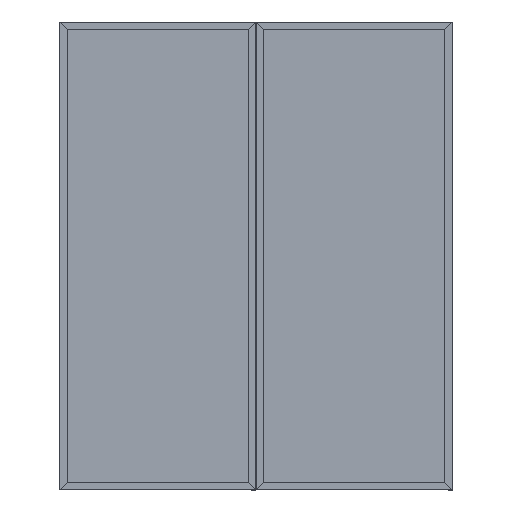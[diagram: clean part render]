
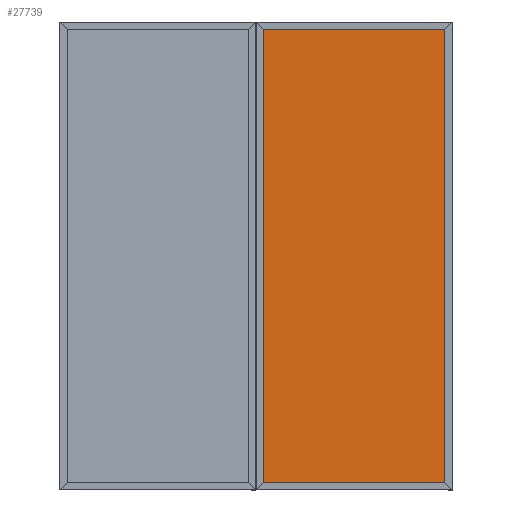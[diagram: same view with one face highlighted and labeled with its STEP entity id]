
A CAD part, top view. The second image highlights one B-rep face of the part: STEP entity #27739.
In plain terms, the highlighted planar face has unit normal (0, 0, 1).
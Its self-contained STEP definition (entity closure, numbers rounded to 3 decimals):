
#759 = LINE ( 'NONE', #15832, #7127 ) ;
#1435 = CARTESIAN_POINT ( 'NONE',  ( -465.07, 0., -13.25 ) ) ;
#1963 = VERTEX_POINT ( 'NONE', #13023 ) ;
#3096 = VERTEX_POINT ( 'NONE', #8556 ) ;
#3707 = CARTESIAN_POINT ( 'NONE',  ( 465.07, -1162.2, -13.25 ) ) ;
#4306 = LINE ( 'NONE', #17228, #21281 ) ;
#4667 = EDGE_LOOP ( 'NONE', ( #6919, #12880, #11565, #24168 ) ) ;
#6251 = DIRECTION ( 'NONE',  ( 0., 0., -1. ) ) ;
#6654 = FACE_OUTER_BOUND ( 'NONE', #4667, .T. ) ;
#6919 = ORIENTED_EDGE ( 'NONE', *, *, #24378, .F. ) ;
#7127 = VECTOR ( 'NONE', #18235, 1000. ) ;
#7663 = AXIS2_PLACEMENT_3D ( 'NONE', #23985, #6251, #14912 ) ;
#8556 = CARTESIAN_POINT ( 'NONE',  ( 465.07, 1162.2, -13.25 ) ) ;
#9141 = VERTEX_POINT ( 'NONE', #3707 ) ;
#10625 = CARTESIAN_POINT ( 'NONE',  ( 465.07, 0., -13.25 ) ) ;
#11454 = CARTESIAN_POINT ( 'NONE',  ( -465.07, -1162.2, -13.25 ) ) ;
#11553 = EDGE_CURVE ( 'NONE', #9141, #3096, #25670, .T. ) ;
#11565 = ORIENTED_EDGE ( 'NONE', *, *, #11553, .T. ) ;
#12880 = ORIENTED_EDGE ( 'NONE', *, *, #21333, .F. ) ;
#13023 = CARTESIAN_POINT ( 'NONE',  ( -465.07, 1162.2, -13.25 ) ) ;
#14912 = DIRECTION ( 'NONE',  ( -1., 0., 0. ) ) ;
#15326 = PLANE ( 'NONE',  #7663 ) ;
#15506 = DIRECTION ( 'NONE',  ( -1., 0., 0. ) ) ;
#15832 = CARTESIAN_POINT ( 'NONE',  ( 0., 1162.2, -13.25 ) ) ;
#16362 = DIRECTION ( 'NONE',  ( 0., 1., 0. ) ) ;
#17228 = CARTESIAN_POINT ( 'NONE',  ( 0., -1162.2, -13.25 ) ) ;
#18235 = DIRECTION ( 'NONE',  ( -1., 0., 0. ) ) ;
#18478 = LINE ( 'NONE', #1435, #25668 ) ;
#18638 = EDGE_CURVE ( 'NONE', #3096, #1963, #759, .T. ) ;
#20443 = VERTEX_POINT ( 'NONE', #11454 ) ;
#21281 = VECTOR ( 'NONE', #15506, 1000. ) ;
#21333 = EDGE_CURVE ( 'NONE', #9141, #20443, #4306, .T. ) ;
#21814 = DIRECTION ( 'NONE',  ( 0., 1., 0. ) ) ;
#21874 = VECTOR ( 'NONE', #21814, 1000. ) ;
#23985 = CARTESIAN_POINT ( 'NONE',  ( 0., 0., -13.25 ) ) ;
#24168 = ORIENTED_EDGE ( 'NONE', *, *, #18638, .T. ) ;
#24378 = EDGE_CURVE ( 'NONE', #20443, #1963, #18478, .T. ) ;
#25668 = VECTOR ( 'NONE', #16362, 1000. ) ;
#25670 = LINE ( 'NONE', #10625, #21874 ) ;
#27739 = ADVANCED_FACE ( 'NONE', ( #6654 ), #15326, .F. ) ;
